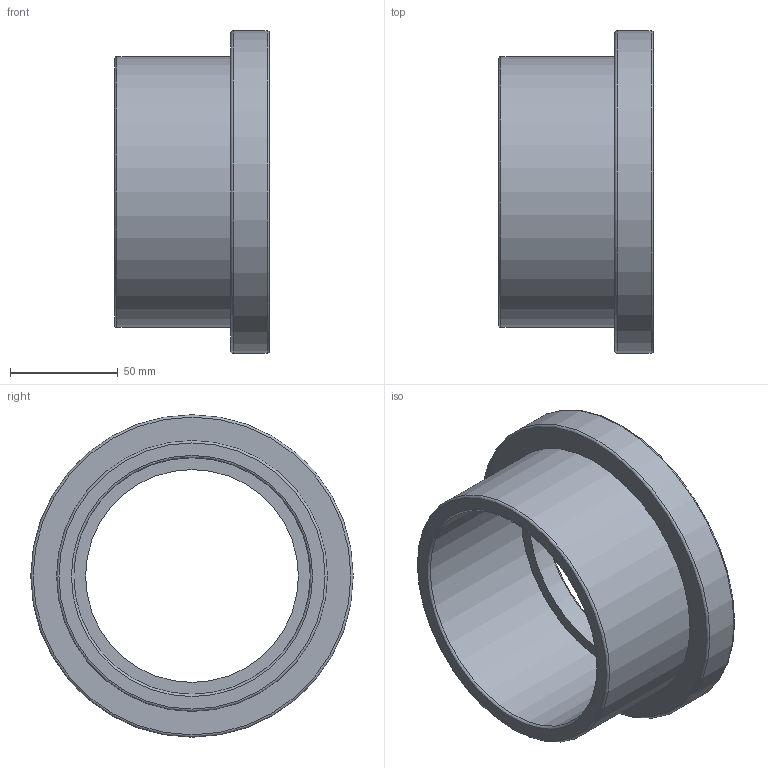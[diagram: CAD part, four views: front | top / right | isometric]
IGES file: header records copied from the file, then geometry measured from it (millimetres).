
Global section: file name: 055000110.ipt; native system: Autodesk Inventor 2015; preprocessor: unknown; author: KIM; date: 20171207.165715; units: millimetre
Bounding box: 72 x 150 x 150 mm (x, y, z)
Volume: 310359.2 mm3; surface area: 76849.7 mm2
Topology: 1 solids, 1 shells, 21 faces, 60 edges, 45 vertices
Faces by surface type: revolution 12, plane 6, cylinder 3
Full cylindrical faces by diameter (mm): 116.85 x1, 126 x1, 150 x1
